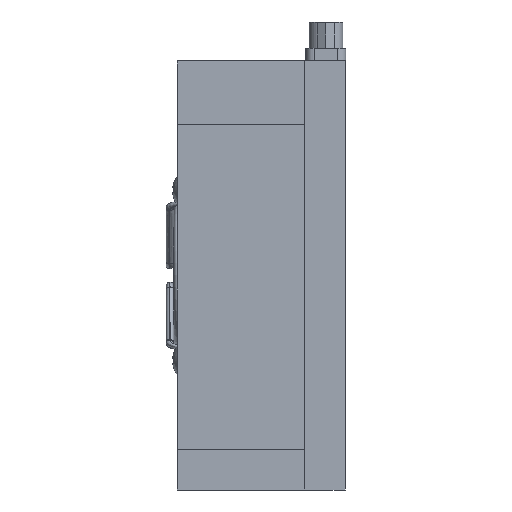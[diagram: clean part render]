
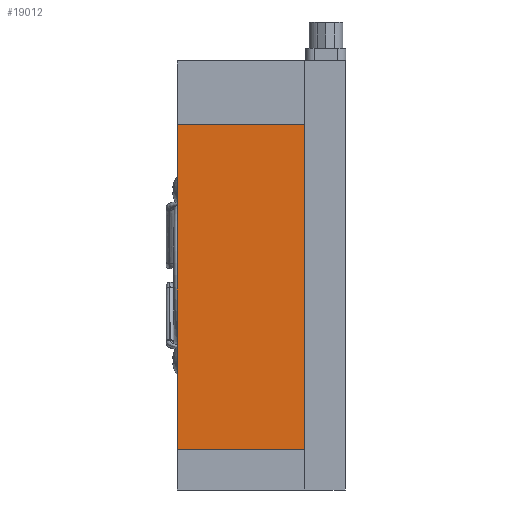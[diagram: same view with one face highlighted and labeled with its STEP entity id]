
A CAD part, left-side view. The second image highlights one B-rep face of the part: STEP entity #19012.
In plain terms, the highlighted planar face has unit normal (-1, 0, 0).
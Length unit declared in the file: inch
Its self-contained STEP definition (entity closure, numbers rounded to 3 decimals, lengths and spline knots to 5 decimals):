
#323 = AXIS2_PLACEMENT_3D ( 'NONE', #43293, #34915, #9316 ) ;
#773 = VECTOR ( 'NONE', #2225, 39.37008 ) ;
#1402 = CARTESIAN_POINT ( 'NONE',  ( -1.5525, 0.3, 3.17 ) ) ;
#2225 = DIRECTION ( 'NONE',  ( 0., 1., 0. ) ) ;
#4639 = CARTESIAN_POINT ( 'NONE',  ( -1.5525, 0.3, 0.3 ) ) ;
#4748 = DIRECTION ( 'NONE',  ( 0., 0., 1. ) ) ;
#4991 = PLANE ( 'NONE',  #323 ) ;
#7159 = ORIENTED_EDGE ( 'NONE', *, *, #11524, .F. ) ;
#8932 = DIRECTION ( 'NONE',  ( 0., -1., 0. ) ) ;
#9316 = DIRECTION ( 'NONE',  ( 0., 0., -1. ) ) ;
#9962 = DIRECTION ( 'NONE',  ( 0., 0., -1. ) ) ;
#10127 = VERTEX_POINT ( 'NONE', #33621 ) ;
#11524 = EDGE_CURVE ( 'NONE', #49884, #16585, #30123, .T. ) ;
#12068 = LINE ( 'NONE', #23537, #773 ) ;
#16461 = VERTEX_POINT ( 'NONE', #39137 ) ;
#16585 = VERTEX_POINT ( 'NONE', #22731 ) ;
#19012 = ADVANCED_FACE ( 'NONE', ( #46067 ), #4991, .F. ) ;
#21380 = LINE ( 'NONE', #1402, #54149 ) ;
#21471 = LINE ( 'NONE', #4639, #42814 ) ;
#22731 = CARTESIAN_POINT ( 'NONE',  ( -1.5525, 1.24, 2.7 ) ) ;
#23537 = CARTESIAN_POINT ( 'NONE',  ( -1.5525, 0.3, 2.7 ) ) ;
#25836 = EDGE_CURVE ( 'NONE', #16461, #16585, #12068, .T. ) ;
#26075 = CARTESIAN_POINT ( 'NONE',  ( -1.5525, 1.24, 0. ) ) ;
#28271 = ORIENTED_EDGE ( 'NONE', *, *, #44728, .T. ) ;
#30123 = LINE ( 'NONE', #26075, #50168 ) ;
#33621 = CARTESIAN_POINT ( 'NONE',  ( -1.5525, 0.3, 0.3 ) ) ;
#34915 = DIRECTION ( 'NONE',  ( 1., 0., 0. ) ) ;
#36218 = EDGE_CURVE ( 'NONE', #16461, #10127, #21380, .T. ) ;
#38003 = ORIENTED_EDGE ( 'NONE', *, *, #25836, .T. ) ;
#39137 = CARTESIAN_POINT ( 'NONE',  ( -1.5525, 0.3, 2.7 ) ) ;
#42814 = VECTOR ( 'NONE', #8932, 39.37008 ) ;
#43293 = CARTESIAN_POINT ( 'NONE',  ( -1.5525, 0.3, 3.17 ) ) ;
#44728 = EDGE_CURVE ( 'NONE', #49884, #10127, #21471, .T. ) ;
#45830 = EDGE_LOOP ( 'NONE', ( #38003, #7159, #28271, #50683 ) ) ;
#46067 = FACE_OUTER_BOUND ( 'NONE', #45830, .T. ) ;
#46101 = CARTESIAN_POINT ( 'NONE',  ( -1.5525, 1.24, 0.3 ) ) ;
#49884 = VERTEX_POINT ( 'NONE', #46101 ) ;
#50168 = VECTOR ( 'NONE', #4748, 39.37008 ) ;
#50683 = ORIENTED_EDGE ( 'NONE', *, *, #36218, .F. ) ;
#54149 = VECTOR ( 'NONE', #9962, 39.37008 ) ;
